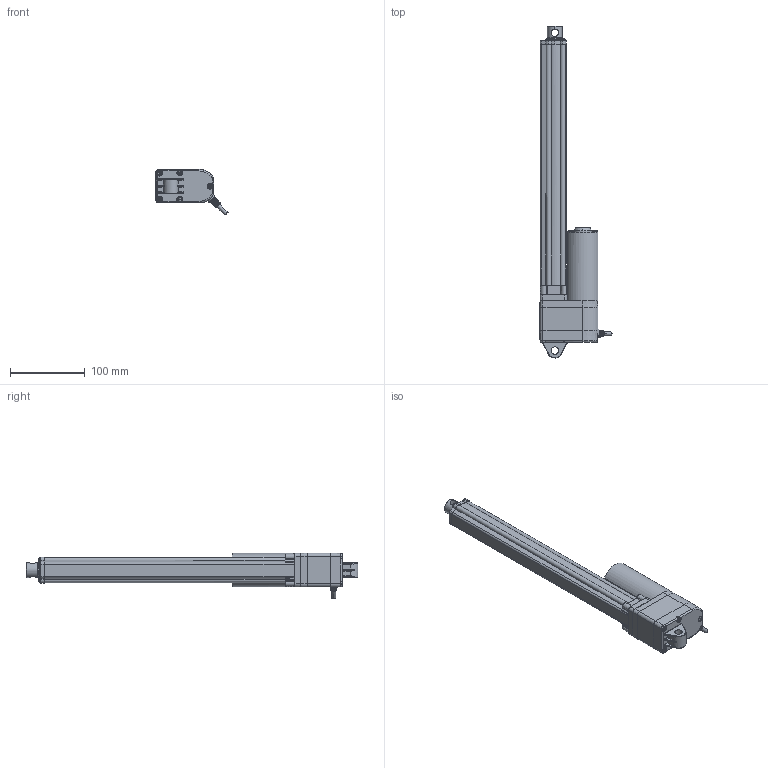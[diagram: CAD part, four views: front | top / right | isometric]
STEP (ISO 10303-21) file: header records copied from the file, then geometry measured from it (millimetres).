
FILE_DESCRIPTION (( 'STEP AP203' ), '1' );
FILE_NAME ('ATUADOR LINEAR KTC-LA-J-300.STEP', '2023-07-06T19:15:28', ( '' ), ( '' ), 'SwSTEP 2.0', 'SolidWorks 2019', '' );
FILE_SCHEMA (( 'CONFIG_CONTROL_DESIGN' ));
Length unit declared in the file: millimetre
Products named in the file (4): LA-J with POT_02^ATUADOR LINEAR KTC-LA-J-300; LA-J with POT_03^ATUADOR LINEAR KTC-LA-J-300; LA-J with POT_01^ATUADOR LINEAR KTC-LA-J-300; ATUADOR LINEAR KTC-LA-J-300
Assembly tree (3 placements, depth 2):
  ATUADOR LINEAR KTC-LA-J-300
    LA-J with POT_01^ATUADOR LINEAR KTC-LA-J-300
    LA-J with POT_03^ATUADOR LINEAR KTC-LA-J-300
    LA-J with POT_02^ATUADOR LINEAR KTC-LA-J-300
Bounding box: 96.57 x 444.13 x 60.74 mm (x, y, z)
Volume: 766738.2 mm3; surface area: 114765.7 mm2
Topology: 3 solids, 7 shells, 850 faces, 2208 edges, 1368 vertices
Faces by surface type: plane 283, cylinder 259, bspline 241, cone 67
Entity records: 34681 total; most frequent: CARTESIAN_POINT 15233, ORIENTED_EDGE 4348, DIRECTION 3591, EDGE_CURVE 2174, VERTEX_POINT 1367, AXIS2_PLACEMENT_3D 1360, EDGE_LOOP 887, VECTOR 871
